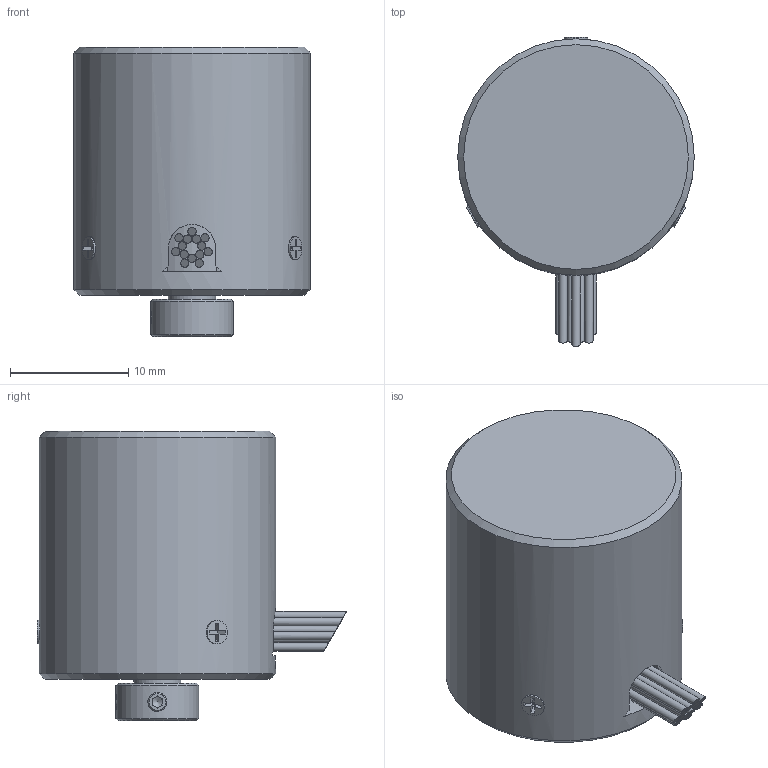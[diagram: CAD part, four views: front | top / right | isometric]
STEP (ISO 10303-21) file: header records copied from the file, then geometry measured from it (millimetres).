
FILE_DESCRIPTION(('STEP AP242'),'1');
FILE_NAME(').stp','2022-10-26T05:12:52',(' '),(' '),'Spatial InterOp 3D',' ',' ');
FILE_SCHEMA(('AP242_MANAGED_MODEL_BASED_3D_ENGINEERING_MIM_LF {1 0 10303 442 1 1 4}'));
Length unit declared in the file: millimetre
Products named in the file (5): L3F01B MAH-17-＊＊＊□1(512以上); 018400 六角穴付止めねじ M2×2; 018211 サラ0番1種 M1.4x2.5 鉄 三価黒
Assembly tree (7 placements, depth 2):
  L3F01B MAH-17-＊＊＊□1(512以上)
    L3F01B MAH-17-＊＊＊□1(512以上)
    018400 六角穴付止めねじ M2×2  x2
    L3F01B MAH-17-＊＊＊□1(512以上)
    018211 サラ0番1種 M1.4x2.5 鉄 三価黒  x3
Bounding box: 20 x 26.16 x 24.5 mm (x, y, z)
Volume: 6501.5 mm3; surface area: 2816.3 mm2
Topology: 21 solids, 21 shells, 198 faces, 424 edges, 275 vertices
Faces by surface type: plane 118, cylinder 53, cone 24, bspline 3
Full cylindrical faces by diameter (mm): 0.7 x14, 1.1 x6, 1.4 x6, 1.6 x9, 2 x6, 3 x2, 4 x1, 7 x1, 20 x1
Entity records: 5193 total; most frequent: CARTESIAN_POINT 1083, DIRECTION 548, ORIENTED_EDGE 380, AXIS2_PLACEMENT_3D 232, EDGE_LOOP 212, EDGE_CURVE 190, FACE_OUTER_BOUND 183, VERTEX_POINT 160
